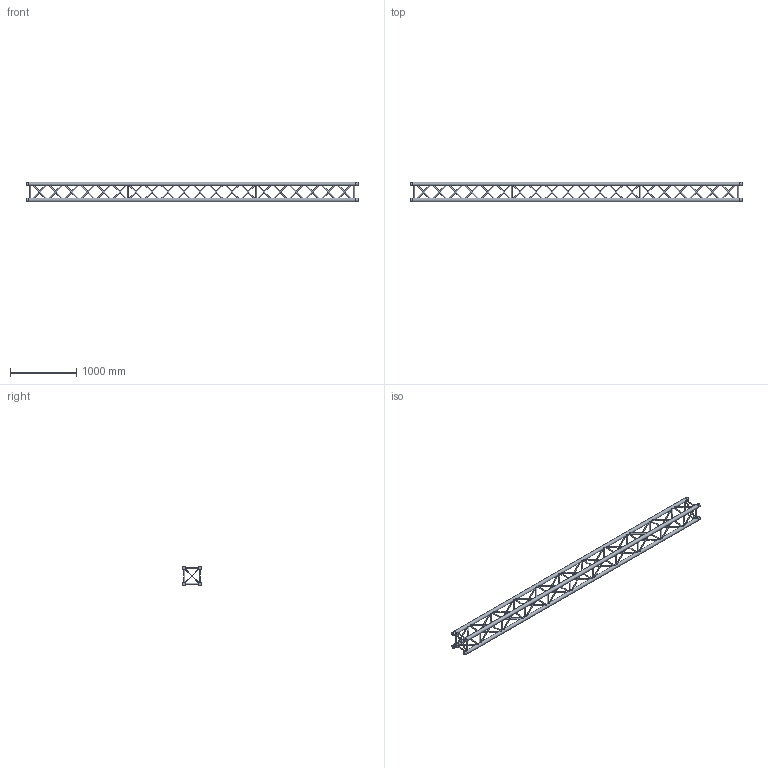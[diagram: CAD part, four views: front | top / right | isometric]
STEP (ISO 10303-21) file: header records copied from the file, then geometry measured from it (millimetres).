
FILE_DESCRIPTION(/* description */ (''),/* implementation_level */ '2;1');
FILE_NAME(/* name */ 'M:\Symbolen\STP\30-er truss\111080157.stp',/* time_stamp */ '2015-01-30T12:04:37+01:00',/* author */ ('Stephan'),/* organization */ (''),/* preprocessor_version */ 'ST-DEVELOPER v15.6',/* originating_system */ 'Autodesk Inventor 2015',/* authorisation */ '');
FILE_SCHEMA (('AUTOMOTIVE_DESIGN { 1 0 10303 214 3 1 1 }'));
Length unit declared in the file: millimetre
Products named in the file (1): 160023759
Bounding box: 5000 x 289.98 x 289.98 mm (x, y, z)
Volume: 36309465.3 mm3; surface area: 4528224 mm2
Topology: 8 solids, 96 shells, 524 faces, 828 edges, 488 vertices
Faces by surface type: plane 384, cylinder 132, cone 8
Full cylindrical faces by diameter (mm): 10 x8, 12 x4, 16 x92, 49.5 x8, 51 x4
Entity records: 13127 total; most frequent: CARTESIAN_POINT 2397, DIRECTION 2058, ORIENTED_EDGE 1728, AXIS2_PLACEMENT_3D 925, EDGE_LOOP 848, EDGE_CURVE 688, STYLED_ITEM 509, FACE_OUTER_BOUND 508
